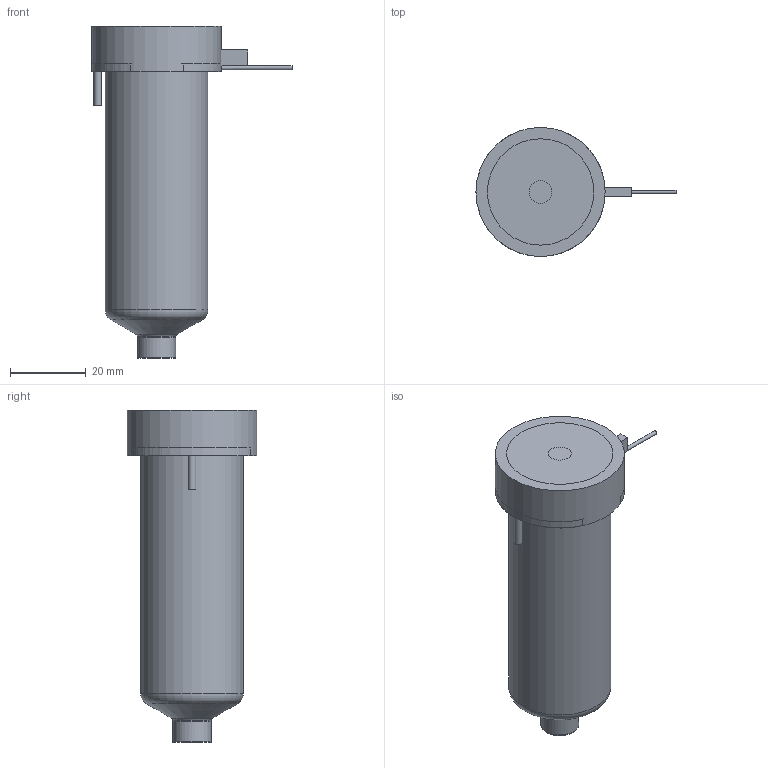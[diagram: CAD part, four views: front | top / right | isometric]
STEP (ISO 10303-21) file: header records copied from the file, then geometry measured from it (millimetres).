
FILE_DESCRIPTION(/* description */ (''),/* implementation_level */ '2;1');
FILE_NAME(/* name */ 'BXTBE13075_200C_a',/* time_stamp */ '2016-03-02T14:37:41+13:00',/* author */ (''),/* organization */ (''),/* preprocessor_version */ 'ST-DEVELOPER v9',/* originating_system */ 'UGS - NX 4.0',/* authorisation */ '');
FILE_SCHEMA (('CONFIG_CONTROL_DESIGN'));
Length unit declared in the file: millimetre
Products named in the file (1): matt3462dzzt
Bounding box: 52.65 x 34 x 87.4 mm (x, y, z)
Volume: 85452.4 mm3; surface area: 17325.7 mm2
Topology: 2 solids, 2 shells, 62 faces, 134 edges, 87 vertices
Faces by surface type: plane 28, cylinder 20, torus 7, cone 6, bspline 1
Full cylindrical faces by diameter (mm): 0.9 x1, 1 x2, 2 x1, 6 x1, 9.61 x1, 10.01 x2, 12.6 x1, 22.2 x1, 27 x1, 34 x1
Entity records: 1795 total; most frequent: CARTESIAN_POINT 458, DIRECTION 274, ORIENTED_EDGE 208, AXIS2_PLACEMENT_3D 118, EDGE_CURVE 104, EDGE_LOOP 98, VERTEX_POINT 80, ADVANCED_FACE 62
